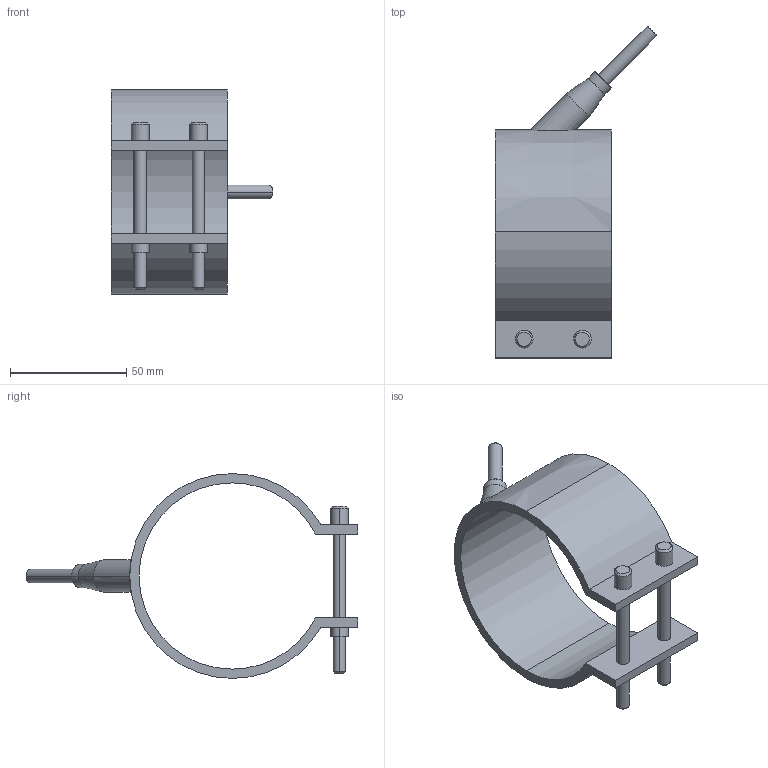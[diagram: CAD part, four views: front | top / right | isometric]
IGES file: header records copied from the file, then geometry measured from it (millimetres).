
Start section: START RECORD GO HERE.
Global section: file name: 29080050.igs; native system: DASSAULT SYSTEMES CATIA V5 R20 - www.3ds.com; preprocessor: CATIA Version 5 Release 20 ; author: Utente; organization: NB04-ASUS; date: 20210329.200839; units: millimetre
Bounding box: 69.55 x 142.55 x 88 mm (x, y, z)
Surface area: 31929.1 mm2 (no closed solid volume)
Topology: 0 solids, 0 shells, 54 faces, 246 edges, 246 vertices
Faces by surface type: revolution 38, plane 16
